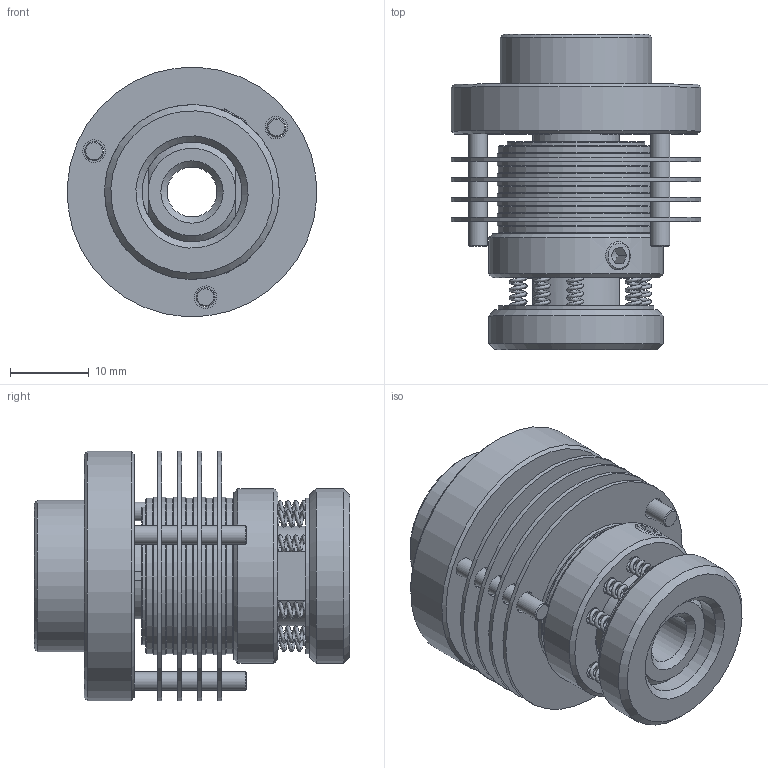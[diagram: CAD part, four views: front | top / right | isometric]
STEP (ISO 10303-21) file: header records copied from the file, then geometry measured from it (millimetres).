
FILE_DESCRIPTION((''),'2;1');
FILE_NAME('P:\Public\Organized 3D Clutch Assembly Files - Jessica\Slippers\Multi Plate\Size 20\SAO20-4.stp','2013-01-24T08:40:48',('TodLob'),(''),'Autodesk Inventor 2011','Autodesk Inventor 2011','');
FILE_SCHEMA(('AUTOMOTIVE_DESIGN { 1 0 10303 214 1 1 1 1 }'));
Length unit declared in the file: inch
Products named in the file (14): SAO20-4; S1611-4; S1619; S1638; S2013; S1621; S1617-9A-2; S1614-9; S1640; S1639; S2009; S2023; Hexagon Socket Set Screw - Flat Point - Inch 8-32 UNC x 0.25; 4-6-8
Assembly tree (38 placements, depth 2):
  SAO20-4
    S1611-4
    S1619
    S1638  x5
    S2013  x4
    S1621  x8
    S1617-9A-2
    S1614-9  x9
    S1640
    S1639
    S2009
    S2023  x3
    Hexagon Socket Set Screw - Flat Point - Inch 8-32 UNC x 0.25  x2
    4-6-8
Bounding box: 31.72 x 40.13 x 31.72 mm (x, y, z)
Volume: 14605.7 mm3; surface area: 21025.3 mm2
Topology: 38 solids, 38 shells, 599 faces, 1356 edges, 881 vertices
Faces by surface type: plane 386, cylinder 89, bspline 45, cone 41, sphere 36, torus 2
Full cylindrical faces by diameter (mm): 2.261 x9, 2.38 x3, 2.413 x3, 2.87 x12, 3.569 x2, 4.166 x2, 6.35 x2, 9.525 x2, 11.176 x1, 12.7 x2, 12.802 x8, 13.487 x4, 17.475 x1, 19.304 x1, 19.761 x6, 20.066 x8, 22.225 x2, 31.75 x5
Entity records: 15303 total; most frequent: CARTESIAN_POINT 4769, DIRECTION 2142, ORIENTED_EDGE 1744, EDGE_CURVE 872, AXIS2_PLACEMENT_3D 804, EDGE_LOOP 743, VERTEX_POINT 651, VECTOR 534
